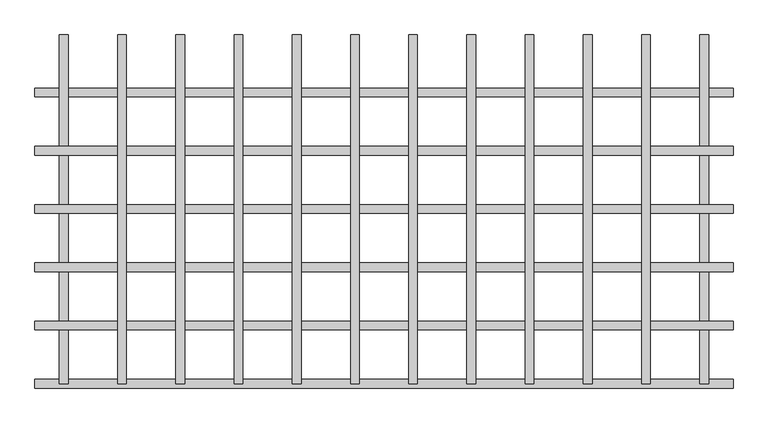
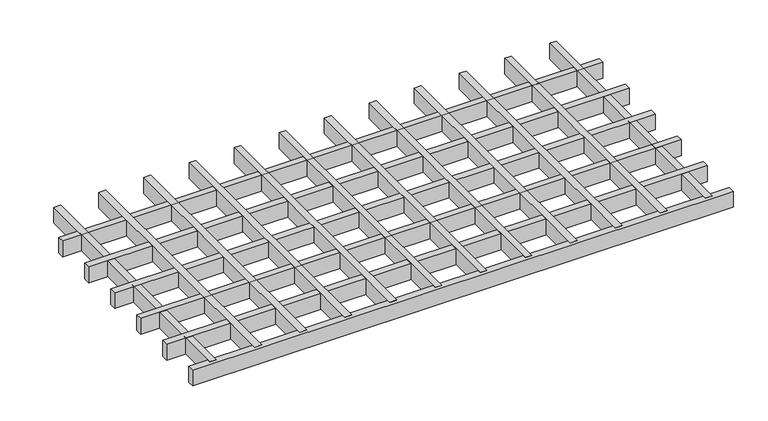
"""IFC4 building model written with IfcOpenShell, lengths in millimetres: proxy geometry, durlum_GEO_panel : durlum_GEO_15."""

from ifc_helpers import new_model, si_unit, origin, origin_with_axes, place, context, project, spatial, polyline, outline, extrude, source, transform, mapped, element, save


def generic_models_9d6370f3(model_context):
    return source(origin(), model_context, "Body", "SweptSolid", [
        extrude(outline(polyline([(442.5, 299.5), (457.5, 299.5), (457.5, -299.5), (442.5, -299.5), (442.5, 299.5)])), origin_with_axes(), (0.0, 0.0, 1.0), 37.0),
        extrude(outline(polyline([(342.5, 299.5), (357.5, 299.5), (357.5, -299.5), (342.5, -299.5), (342.5, 299.5)])), origin_with_axes(), (0.0, 0.0, 1.0), 37.0),
        extrude(outline(polyline([(242.5, 299.5), (257.5, 299.5), (257.5, -299.5), (242.5, -299.5), (242.5, 299.5)])), origin_with_axes(), (0.0, 0.0, 1.0), 37.0),
        extrude(outline(polyline([(142.5, 299.5), (157.5, 299.5), (157.5, -299.5), (142.5, -299.5), (142.5, 299.5)])), origin_with_axes(), (0.0, 0.0, 1.0), 37.0),
        extrude(outline(polyline([(42.5, 299.5), (57.5, 299.5), (57.5, -299.5), (42.5, -299.5), (42.5, 299.5)])), origin_with_axes(), (0.0, 0.0, 1.0), 37.0),
        extrude(outline(polyline([(-57.5, 299.5), (-42.5, 299.5), (-42.5, -299.5), (-57.5, -299.5), (-57.5, 299.5)])), origin_with_axes(), (0.0, 0.0, 1.0), 37.0),
        extrude(outline(polyline([(-157.5, 299.5), (-142.5, 299.5), (-142.5, -299.5), (-157.5, -299.5), (-157.5, 299.5)])), origin_with_axes(), (0.0, 0.0, 1.0), 37.0),
        extrude(outline(polyline([(-257.5, 299.5), (-242.5, 299.5), (-242.5, -299.5), (-257.5, -299.5), (-257.5, 299.5)])), origin_with_axes(), (0.0, 0.0, 1.0), 37.0),
        extrude(outline(polyline([(-357.5, 299.5), (-342.5, 299.5), (-342.5, -299.5), (-357.5, -299.5), (-357.5, 299.5)])), origin_with_axes(), (0.0, 0.0, 1.0), 37.0),
        extrude(outline(polyline([(-457.5, 299.5), (-442.5, 299.5), (-442.5, -299.5), (-457.5, -299.5), (-457.5, 299.5)])), origin_with_axes(), (0.0, 0.0, 1.0), 37.0),
        extrude(outline(polyline([(599.5, -192.0), (599.5, -207.0), (-599.5, -207.0), (-599.5, -192.0), (599.5, -192.0)])), origin_with_axes(), (0.0, 0.0, 1.0), 37.0),
        extrude(outline(polyline([(599.5, -92.0), (599.5, -107.0), (-599.5, -107.0), (-599.5, -92.0), (599.5, -92.0)])), origin_with_axes(), (0.0, 0.0, 1.0), 37.0),
        extrude(outline(polyline([(599.5, 8.0), (599.5, -7.0), (-599.5, -7.0), (-599.5, 8.0), (599.5, 8.0)])), origin_with_axes(), (0.0, 0.0, 1.0), 37.0),
        extrude(outline(polyline([(599.5, 108.0), (599.5, 93.0), (-599.5, 93.0), (-599.5, 108.0), (599.5, 108.0)])), origin_with_axes(), (0.0, 0.0, 1.0), 37.0),
        extrude(outline(polyline([(542.5, 299.5), (557.5, 299.5), (557.5, -299.5), (542.5, -299.5), (542.5, 299.5)])), origin_with_axes(), (0.0, 0.0, 1.0), 37.0),
        extrude(outline(polyline([(-557.5, 299.5), (-542.5, 299.5), (-542.5, -299.5), (-557.5, -299.5), (-557.5, 299.5)])), origin_with_axes(), (0.0, 0.0, 1.0), 37.0),
        extrude(outline(polyline([(599.5, -292.0), (599.5, -307.0), (-599.5, -307.0), (-599.5, -292.0), (599.5, -292.0)])), origin_with_axes(), (0.0, 0.0, 1.0), 37.0),
        extrude(outline(polyline([(599.5, 208.0), (599.5, 193.0), (-599.5, 193.0), (-599.5, 208.0), (599.5, 208.0)])), origin_with_axes(), (0.0, 0.0, 1.0), 37.0),
    ])


if __name__ == "__main__":
    model = new_model("IFC4")
    model_context = context("Model", 3, world=origin())
    ifc_project = project(units=[si_unit("LENGTHUNIT", "METRE", prefix="MILLI")], contexts=[model_context])
    site = spatial("IfcSite", under=ifc_project)
    building = spatial("IfcBuilding", under=site)
    placement = place(None, origin())
    generic_models_shape = generic_models_9d6370f3(model_context)
    element("IfcBuildingElementProxy", 1, Name="durlum_GEO_panel : durlum_GEO_15", ObjectType="durlum_GEO_panel : durlum_GEO_15", at=placement, inside=building, context=model_context, shape_type="MappedRepresentation", body=[
        mapped(generic_models_shape, transform((0.0, 0.0, 0.0), x_axis=(1.0, 0.0, 0.0), y_axis=(0.0, 1.0, 0.0), z_axis=(0.0, 0.0, 1.0))),
    ])
    save(model, "model.ifc")
